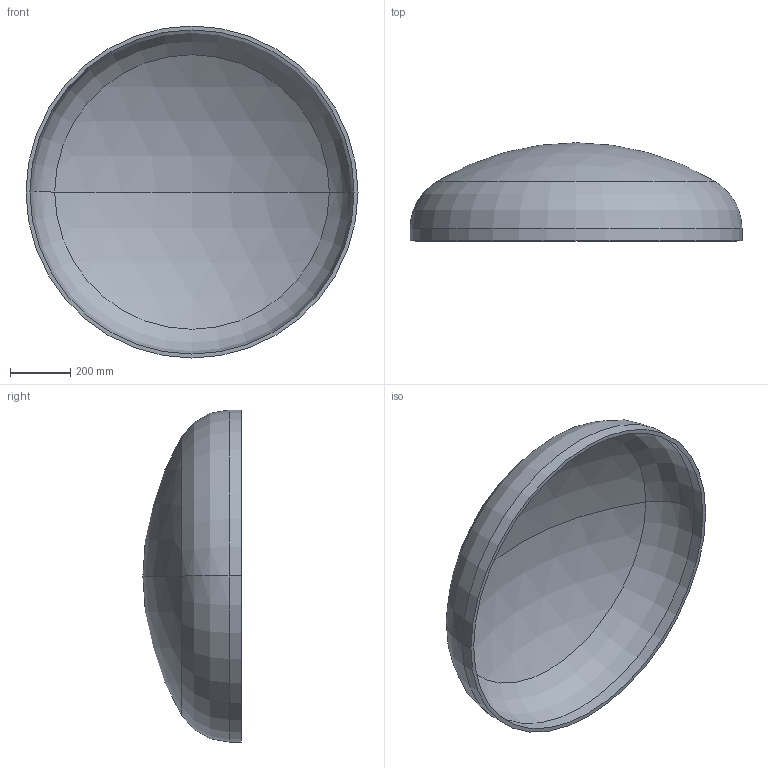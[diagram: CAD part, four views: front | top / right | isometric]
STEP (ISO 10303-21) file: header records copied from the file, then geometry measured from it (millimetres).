
FILE_DESCRIPTION (( 'STEP AP203' ), '1' );
FILE_NAME ('DIN 28013 Korbbogenform_-_Boden DIN 28013 - 1100 x 40 - I - s=13.step', '2016-07-01T09:01:33', ( '' ), ( '' ), 'SwSTEP 2.0', 'SolidWorks 2013', '' );
FILE_SCHEMA (( 'CONFIG_CONTROL_DESIGN' ));
Length unit declared in the file: millimetre
Products named in the file (1): DIN 28013 Korbbogenform_-_Boden DIN 28013 - 1100 x 40 - I - s=13
Bounding box: 1100 x 325.21 x 1100 mm (x, y, z)
Volume: 18632732.4 mm3; surface area: 2911321 mm2
Topology: 1 solids, 1 shells, 13 faces, 24 edges, 14 vertices
Faces by surface type: torus 4, cylinder 4, sphere 4, plane 1
Entity records: 407 total; most frequent: DIRECTION 72, CARTESIAN_POINT 52, ORIENTED_EDGE 48, AXIS2_PLACEMENT_3D 34, EDGE_CURVE 24, CIRCLE 20, EDGE_LOOP 14, VERTEX_POINT 14
